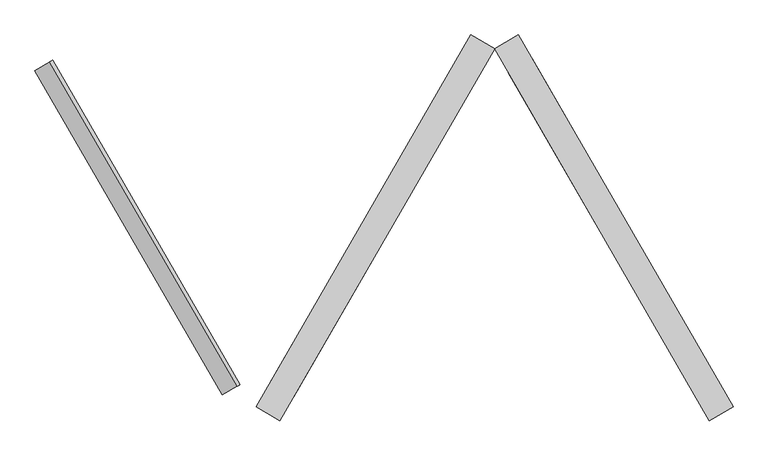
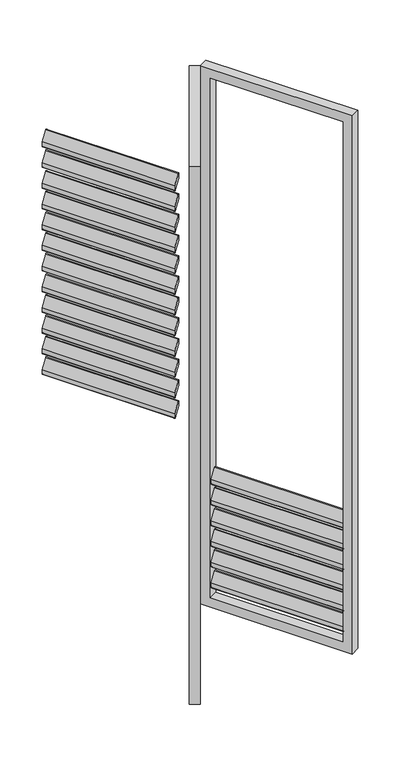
"""IFC4 building model written with IfcOpenShell, lengths in millimetres: proxy geometry, Renson_Amani_Loggia_Paro_Aluminium_Folding : Renson_Amani_Loggia_Paro_Aluminium_Folding."""

from ifc_helpers import new_model, si_unit, point, frame, frame_2d, origin, place, context, project, spatial, polyline, circle_curve, trimmed, segment, composite_curve, outline, extrude, source, transform, mapped, element, save


def generic_models_ec5acdc6(model_context):
    return source(origin(), model_context, "Body", "SweptSolid", [
        extrude(outline(composite_curve([segment(polyline([(-44.0658831, 0.0), (0.8886405, 0.0), (17.0325667, -10.4839883)]), True, "CONTINUOUS"), segment(trimmed(circle_curve(frame_2d((15.3986496, -13.0)), 3.0), [point((17.0325667, -10.4839883))], [point((15.3986496, -16.0))], False, "CARTESIAN"), True, "CONTINUOUS"), segment(polyline([(15.3986496, -16.0), (-28.6672334, -16.0)]), True, "CONTINUOUS"), segment(trimmed(circle_curve(frame_2d((-28.6672334, -13.0)), 3.0), [point((-28.6672334, -16.0))], [point((-30.3011505, -15.5160117))], False, "CARTESIAN"), True, "CONTINUOUS"), segment(polyline([(-30.3011505, -15.5160117), (-45.6998002, -5.5160117)]), True, "CONTINUOUS"), segment(trimmed(circle_curve(frame_2d((-44.0658831, -3.0)), 3.0), [point((-45.6998002, -5.5160117))], [point((-44.0658831, 0.0))], False, "CARTESIAN"), True, "CONTINUOUS")], self_intersect=False)), frame((1686.1094572, 37.7168064, 597.3359298), z_axis=(-0.5000000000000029, 0.866025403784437, 0.0), x_axis=(-0.47167124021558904, -0.27231951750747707, -0.8386705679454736)), (0.0, 0.0, 1.0), 545.0),
        extrude(outline(composite_curve([segment(polyline([(-44.0658831, 0.0), (0.8886405, 0.0), (17.0325667, -10.4839883)]), True, "CONTINUOUS"), segment(trimmed(circle_curve(frame_2d((15.3986496, -13.0)), 3.0), [point((17.0325667, -10.4839883))], [point((15.3986496, -16.0))], False, "CARTESIAN"), True, "CONTINUOUS"), segment(polyline([(15.3986496, -16.0), (-28.6672334, -16.0)]), True, "CONTINUOUS"), segment(trimmed(circle_curve(frame_2d((-28.6672334, -13.0)), 3.0), [point((-28.6672334, -16.0))], [point((-30.3011505, -15.5160117))], False, "CARTESIAN"), True, "CONTINUOUS"), segment(polyline([(-30.3011505, -15.5160117), (-45.6998002, -5.5160117)]), True, "CONTINUOUS"), segment(trimmed(circle_curve(frame_2d((-44.0658831, -3.0)), 3.0), [point((-45.6998002, -5.5160117))], [point((-44.0658831, 0.0))], False, "CARTESIAN"), True, "CONTINUOUS")], self_intersect=False)), frame((1686.1094572, 37.7168064, 507.3359298), z_axis=(-0.5000000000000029, 0.866025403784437, 0.0), x_axis=(-0.47167124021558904, -0.27231951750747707, -0.8386705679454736)), (0.0, 0.0, 1.0), 545.0),
        extrude(outline(composite_curve([segment(polyline([(-44.0658831, 0.0), (0.8886405, 0.0), (17.0325667, -10.4839883)]), True, "CONTINUOUS"), segment(trimmed(circle_curve(frame_2d((15.3986496, -13.0)), 3.0), [point((17.0325667, -10.4839883))], [point((15.3986496, -16.0))], False, "CARTESIAN"), True, "CONTINUOUS"), segment(polyline([(15.3986496, -16.0), (-28.6672334, -16.0)]), True, "CONTINUOUS"), segment(trimmed(circle_curve(frame_2d((-28.6672334, -13.0)), 3.0), [point((-28.6672334, -16.0))], [point((-30.3011505, -15.5160117))], False, "CARTESIAN"), True, "CONTINUOUS"), segment(polyline([(-30.3011505, -15.5160117), (-45.6998002, -5.5160117)]), True, "CONTINUOUS"), segment(trimmed(circle_curve(frame_2d((-44.0658831, -3.0)), 3.0), [point((-45.6998002, -5.5160117))], [point((-44.0658831, 0.0))], False, "CARTESIAN"), True, "CONTINUOUS")], self_intersect=False)), frame((1686.1094572, 37.7168064, 417.3359298), z_axis=(-0.5000000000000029, 0.866025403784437, 0.0), x_axis=(-0.47167124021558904, -0.27231951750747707, -0.8386705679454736)), (0.0, 0.0, 1.0), 545.0),
        extrude(outline(composite_curve([segment(polyline([(-44.0658831, 0.0), (0.8886405, 0.0), (17.0325667, -10.4839883)]), True, "CONTINUOUS"), segment(trimmed(circle_curve(frame_2d((15.3986496, -13.0)), 3.0), [point((17.0325667, -10.4839883))], [point((15.3986496, -16.0))], False, "CARTESIAN"), True, "CONTINUOUS"), segment(polyline([(15.3986496, -16.0), (-28.6672334, -16.0)]), True, "CONTINUOUS"), segment(trimmed(circle_curve(frame_2d((-28.6672334, -13.0)), 3.0), [point((-28.6672334, -16.0))], [point((-30.3011505, -15.5160117))], False, "CARTESIAN"), True, "CONTINUOUS"), segment(polyline([(-30.3011505, -15.5160117), (-45.6998002, -5.5160117)]), True, "CONTINUOUS"), segment(trimmed(circle_curve(frame_2d((-44.0658831, -3.0)), 3.0), [point((-45.6998002, -5.5160117))], [point((-44.0658831, 0.0))], False, "CARTESIAN"), True, "CONTINUOUS")], self_intersect=False)), frame((1686.1094572, 37.7168064, 327.3359298), z_axis=(-0.5000000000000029, 0.866025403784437, 0.0), x_axis=(-0.47167124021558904, -0.27231951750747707, -0.8386705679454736)), (0.0, 0.0, 1.0), 545.0),
        extrude(outline(composite_curve([segment(polyline([(-44.0658831, 0.0), (0.8886405, 0.0), (17.0325667, -10.4839883)]), True, "CONTINUOUS"), segment(trimmed(circle_curve(frame_2d((15.3986496, -13.0)), 3.0), [point((17.0325667, -10.4839883))], [point((15.3986496, -16.0))], False, "CARTESIAN"), True, "CONTINUOUS"), segment(polyline([(15.3986496, -16.0), (-28.6672334, -16.0)]), True, "CONTINUOUS"), segment(trimmed(circle_curve(frame_2d((-28.6672334, -13.0)), 3.0), [point((-28.6672334, -16.0))], [point((-30.3011505, -15.5160117))], False, "CARTESIAN"), True, "CONTINUOUS"), segment(polyline([(-30.3011505, -15.5160117), (-45.6998002, -5.5160117)]), True, "CONTINUOUS"), segment(trimmed(circle_curve(frame_2d((-44.0658831, -3.0)), 3.0), [point((-45.6998002, -5.5160117))], [point((-44.0658831, 0.0))], False, "CARTESIAN"), True, "CONTINUOUS")], self_intersect=False)), frame((1686.1094572, 37.7168064, 237.3359298), z_axis=(-0.5000000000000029, 0.866025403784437, 0.0), x_axis=(-0.47167124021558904, -0.27231951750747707, -0.8386705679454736)), (0.0, 0.0, 1.0), 545.0),
        extrude(outline(composite_curve([segment(polyline([(-44.0658831, 0.0), (0.8886405, 0.0), (17.0325667, -10.4839883)]), True, "CONTINUOUS"), segment(trimmed(circle_curve(frame_2d((15.3986496, -13.0)), 3.0), [point((17.0325667, -10.4839883))], [point((15.3986496, -16.0))], False, "CARTESIAN"), True, "CONTINUOUS"), segment(polyline([(15.3986496, -16.0), (-28.6672334, -16.0)]), True, "CONTINUOUS"), segment(trimmed(circle_curve(frame_2d((-28.6672334, -13.0)), 3.0), [point((-28.6672334, -16.0))], [point((-30.3011505, -15.5160117))], False, "CARTESIAN"), True, "CONTINUOUS"), segment(polyline([(-30.3011505, -15.5160117), (-45.6998002, -5.5160117)]), True, "CONTINUOUS"), segment(trimmed(circle_curve(frame_2d((-44.0658831, -3.0)), 3.0), [point((-45.6998002, -5.5160117))], [point((-44.0658831, 0.0))], False, "CARTESIAN"), True, "CONTINUOUS")], self_intersect=False)), frame((1686.1094572, 37.7168064, 147.3359298), z_axis=(-0.5000000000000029, 0.866025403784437, 0.0), x_axis=(-0.47167124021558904, -0.27231951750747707, -0.8386705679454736)), (0.0, 0.0, 1.0), 545.0),
        extrude(outline(polyline([(2300.0, -40.0), (-40.0, -40.0), (-40.0, 585.0), (2300.0, 585.0), (2300.0, -40.0)]), holes=[polyline([(2260.0, 544.9999999), (0.0, 544.9999999), (0.0, 0.0), (2260.0, 0.0), (2260.0, 544.9999999)])]), frame((1408.2820323, 506.6248612, 85.0), z_axis=(0.866025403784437, 0.500000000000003, 0.0), x_axis=(0.0, 0.0, 1.0)), (0.0, 0.0, 1.0), 40.0),
        extrude(outline(composite_curve([segment(trimmed(circle_curve(frame_2d((44.0658831, -3.0)), 3.0), [point((44.0658831, 0.0))], [point((45.6998002, -5.5160117))], False, "CARTESIAN"), True, "CONTINUOUS"), segment(polyline([(45.6998002, -5.5160117), (30.3011505, -15.5160117)]), True, "CONTINUOUS"), segment(trimmed(circle_curve(frame_2d((28.6672334, -13.0)), 3.0), [point((30.3011505, -15.5160117))], [point((28.6672334, -16.0))], False, "CARTESIAN"), True, "CONTINUOUS"), segment(polyline([(28.6672334, -16.0), (-15.3986496, -16.0)]), True, "CONTINUOUS"), segment(trimmed(circle_curve(frame_2d((-15.3986496, -13.0)), 3.0), [point((-15.3986496, -16.0))], [point((-17.0325667, -10.4839883))], False, "CARTESIAN"), True, "CONTINUOUS"), segment(polyline([(-17.0325667, -10.4839883), (-0.8886405, 0.0), (44.0658831, 0.0)]), True, "CONTINUOUS")], self_intersect=False)), frame((1090.4546074, 37.7168064, 2307.3359298), z_axis=(0.5000000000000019, 0.8660254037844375, 0.0), x_axis=(-0.4716712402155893, 0.2723195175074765, 0.8386705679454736)), (0.0, 0.0, 1.0), 545.0),
        extrude(outline(composite_curve([segment(trimmed(circle_curve(frame_2d((44.0658831, -3.0)), 3.0), [point((44.0658831, 0.0))], [point((45.6998002, -5.5160117))], False, "CARTESIAN"), True, "CONTINUOUS"), segment(polyline([(45.6998002, -5.5160117), (30.3011505, -15.5160117)]), True, "CONTINUOUS"), segment(trimmed(circle_curve(frame_2d((28.6672334, -13.0)), 3.0), [point((30.3011505, -15.5160117))], [point((28.6672334, -16.0))], False, "CARTESIAN"), True, "CONTINUOUS"), segment(polyline([(28.6672334, -16.0), (-15.3986496, -16.0)]), True, "CONTINUOUS"), segment(trimmed(circle_curve(frame_2d((-15.3986496, -13.0)), 3.0), [point((-15.3986496, -16.0))], [point((-17.0325667, -10.4839883))], False, "CARTESIAN"), True, "CONTINUOUS"), segment(polyline([(-17.0325667, -10.4839883), (-0.8886405, 0.0), (44.0658831, 0.0)]), True, "CONTINUOUS")], self_intersect=False)), frame((1090.4546074, 37.7168064, 2217.3359298), z_axis=(0.5000000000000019, 0.8660254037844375, 0.0), x_axis=(-0.4716712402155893, 0.2723195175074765, 0.8386705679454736)), (0.0, 0.0, 1.0), 545.0),
        extrude(outline(composite_curve([segment(trimmed(circle_curve(frame_2d((44.0658831, -3.0)), 3.0), [point((44.0658831, 0.0))], [point((45.6998002, -5.5160117))], False, "CARTESIAN"), True, "CONTINUOUS"), segment(polyline([(45.6998002, -5.5160117), (30.3011505, -15.5160117)]), True, "CONTINUOUS"), segment(trimmed(circle_curve(frame_2d((28.6672334, -13.0)), 3.0), [point((30.3011505, -15.5160117))], [point((28.6672334, -16.0))], False, "CARTESIAN"), True, "CONTINUOUS"), segment(polyline([(28.6672334, -16.0), (-15.3986496, -16.0)]), True, "CONTINUOUS"), segment(trimmed(circle_curve(frame_2d((-15.3986496, -13.0)), 3.0), [point((-15.3986496, -16.0))], [point((-17.0325667, -10.4839883))], False, "CARTESIAN"), True, "CONTINUOUS"), segment(polyline([(-17.0325667, -10.4839883), (-0.8886405, 0.0), (44.0658831, 0.0)]), True, "CONTINUOUS")], self_intersect=False)), frame((1090.4546074, 37.7168064, 2127.3359298), z_axis=(0.5000000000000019, 0.8660254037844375, 0.0), x_axis=(-0.4716712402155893, 0.2723195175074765, 0.8386705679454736)), (0.0, 0.0, 1.0), 545.0),
        extrude(outline(composite_curve([segment(trimmed(circle_curve(frame_2d((44.0658831, -3.0)), 3.0), [point((44.0658831, 0.0))], [point((45.6998002, -5.5160117))], False, "CARTESIAN"), True, "CONTINUOUS"), segment(polyline([(45.6998002, -5.5160117), (30.3011505, -15.5160117)]), True, "CONTINUOUS"), segment(trimmed(circle_curve(frame_2d((28.6672334, -13.0)), 3.0), [point((30.3011505, -15.5160117))], [point((28.6672334, -16.0))], False, "CARTESIAN"), True, "CONTINUOUS"), segment(polyline([(28.6672334, -16.0), (-15.3986496, -16.0)]), True, "CONTINUOUS"), segment(trimmed(circle_curve(frame_2d((-15.3986496, -13.0)), 3.0), [point((-15.3986496, -16.0))], [point((-17.0325667, -10.4839883))], False, "CARTESIAN"), True, "CONTINUOUS"), segment(polyline([(-17.0325667, -10.4839883), (-0.8886405, 0.0), (44.0658831, 0.0)]), True, "CONTINUOUS")], self_intersect=False)), frame((1090.4546074, 37.7168064, 2037.3359298), z_axis=(0.5000000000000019, 0.8660254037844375, 0.0), x_axis=(-0.4716712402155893, 0.2723195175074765, 0.8386705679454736)), (0.0, 0.0, 1.0), 545.0),
        extrude(outline(composite_curve([segment(trimmed(circle_curve(frame_2d((44.0658831, -3.0)), 3.0), [point((44.0658831, 0.0))], [point((45.6998002, -5.5160117))], False, "CARTESIAN"), True, "CONTINUOUS"), segment(polyline([(45.6998002, -5.5160117), (30.3011505, -15.5160117)]), True, "CONTINUOUS"), segment(trimmed(circle_curve(frame_2d((28.6672334, -13.0)), 3.0), [point((30.3011505, -15.5160117))], [point((28.6672334, -16.0))], False, "CARTESIAN"), True, "CONTINUOUS"), segment(polyline([(28.6672334, -16.0), (-15.3986496, -16.0)]), True, "CONTINUOUS"), segment(trimmed(circle_curve(frame_2d((-15.3986496, -13.0)), 3.0), [point((-15.3986496, -16.0))], [point((-17.0325667, -10.4839883))], False, "CARTESIAN"), True, "CONTINUOUS"), segment(polyline([(-17.0325667, -10.4839883), (-0.8886405, 0.0), (44.0658831, 0.0)]), True, "CONTINUOUS")], self_intersect=False)), frame((1090.4546074, 37.7168064, 1947.3359298), z_axis=(0.5000000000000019, 0.8660254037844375, 0.0), x_axis=(-0.4716712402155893, 0.2723195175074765, 0.8386705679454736)), (0.0, 0.0, 1.0), 545.0),
        extrude(outline(composite_curve([segment(trimmed(circle_curve(frame_2d((44.0658831, -3.0)), 3.0), [point((44.0658831, 0.0))], [point((45.6998002, -5.5160117))], False, "CARTESIAN"), True, "CONTINUOUS"), segment(polyline([(45.6998002, -5.5160117), (30.3011505, -15.5160117)]), True, "CONTINUOUS"), segment(trimmed(circle_curve(frame_2d((28.6672334, -13.0)), 3.0), [point((30.3011505, -15.5160117))], [point((28.6672334, -16.0))], False, "CARTESIAN"), True, "CONTINUOUS"), segment(polyline([(28.6672334, -16.0), (-15.3986496, -16.0)]), True, "CONTINUOUS"), segment(trimmed(circle_curve(frame_2d((-15.3986496, -13.0)), 3.0), [point((-15.3986496, -16.0))], [point((-17.0325667, -10.4839883))], False, "CARTESIAN"), True, "CONTINUOUS"), segment(polyline([(-17.0325667, -10.4839883), (-0.8886405, 0.0), (44.0658831, 0.0)]), True, "CONTINUOUS")], self_intersect=False)), frame((1090.4546074, 37.7168064, 1857.3359298), z_axis=(0.5000000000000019, 0.8660254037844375, 0.0), x_axis=(-0.4716712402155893, 0.2723195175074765, 0.8386705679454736)), (0.0, 0.0, 1.0), 545.0),
        extrude(outline(composite_curve([segment(trimmed(circle_curve(frame_2d((44.0658831, -3.0)), 3.0), [point((44.0658831, 0.0))], [point((45.6998002, -5.5160117))], False, "CARTESIAN"), True, "CONTINUOUS"), segment(polyline([(45.6998002, -5.5160117), (30.3011505, -15.5160117)]), True, "CONTINUOUS"), segment(trimmed(circle_curve(frame_2d((28.6672334, -13.0)), 3.0), [point((30.3011505, -15.5160117))], [point((28.6672334, -16.0))], False, "CARTESIAN"), True, "CONTINUOUS"), segment(polyline([(28.6672334, -16.0), (-15.3986496, -16.0)]), True, "CONTINUOUS"), segment(trimmed(circle_curve(frame_2d((-15.3986496, -13.0)), 3.0), [point((-15.3986496, -16.0))], [point((-17.0325667, -10.4839883))], False, "CARTESIAN"), True, "CONTINUOUS"), segment(polyline([(-17.0325667, -10.4839883), (-0.8886405, 0.0), (44.0658831, 0.0)]), True, "CONTINUOUS")], self_intersect=False)), frame((1090.4546074, 37.7168064, 1767.3359298), z_axis=(0.5000000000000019, 0.8660254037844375, 0.0), x_axis=(-0.4716712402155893, 0.2723195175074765, 0.8386705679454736)), (0.0, 0.0, 1.0), 545.0),
        extrude(outline(composite_curve([segment(trimmed(circle_curve(frame_2d((44.0658831, -3.0)), 3.0), [point((44.0658831, 0.0))], [point((45.6998002, -5.5160117))], False, "CARTESIAN"), True, "CONTINUOUS"), segment(polyline([(45.6998002, -5.5160117), (30.3011505, -15.5160117)]), True, "CONTINUOUS"), segment(trimmed(circle_curve(frame_2d((28.6672334, -13.0)), 3.0), [point((30.3011505, -15.5160117))], [point((28.6672334, -16.0))], False, "CARTESIAN"), True, "CONTINUOUS"), segment(polyline([(28.6672334, -16.0), (-15.3986496, -16.0)]), True, "CONTINUOUS"), segment(trimmed(circle_curve(frame_2d((-15.3986496, -13.0)), 3.0), [point((-15.3986496, -16.0))], [point((-17.0325667, -10.4839883))], False, "CARTESIAN"), True, "CONTINUOUS"), segment(polyline([(-17.0325667, -10.4839883), (-0.8886405, 0.0), (44.0658831, 0.0)]), True, "CONTINUOUS")], self_intersect=False)), frame((1090.4546074, 37.7168064, 1677.3359298), z_axis=(0.5000000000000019, 0.8660254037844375, 0.0), x_axis=(-0.4716712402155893, 0.2723195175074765, 0.8386705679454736)), (0.0, 0.0, 1.0), 545.0),
        extrude(outline(composite_curve([segment(trimmed(circle_curve(frame_2d((44.0658831, -3.0)), 3.0), [point((44.0658831, 0.0))], [point((45.6998002, -5.5160117))], False, "CARTESIAN"), True, "CONTINUOUS"), segment(polyline([(45.6998002, -5.5160117), (30.3011505, -15.5160117)]), True, "CONTINUOUS"), segment(trimmed(circle_curve(frame_2d((28.6672334, -13.0)), 3.0), [point((30.3011505, -15.5160117))], [point((28.6672334, -16.0))], False, "CARTESIAN"), True, "CONTINUOUS"), segment(polyline([(28.6672334, -16.0), (-15.3986496, -16.0)]), True, "CONTINUOUS"), segment(trimmed(circle_curve(frame_2d((-15.3986496, -13.0)), 3.0), [point((-15.3986496, -16.0))], [point((-17.0325667, -10.4839883))], False, "CARTESIAN"), True, "CONTINUOUS"), segment(polyline([(-17.0325667, -10.4839883), (-0.8886405, 0.0), (44.0658831, 0.0)]), True, "CONTINUOUS")], self_intersect=False)), frame((1090.4546074, 37.7168064, 1587.3359298), z_axis=(0.5000000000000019, 0.8660254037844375, 0.0), x_axis=(-0.4716712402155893, 0.2723195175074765, 0.8386705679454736)), (0.0, 0.0, 1.0), 545.0),
        extrude(outline(composite_curve([segment(trimmed(circle_curve(frame_2d((44.0658831, -3.0)), 3.0), [point((44.0658831, 0.0))], [point((45.6998002, -5.5160117))], False, "CARTESIAN"), True, "CONTINUOUS"), segment(polyline([(45.6998002, -5.5160117), (30.3011505, -15.5160117)]), True, "CONTINUOUS"), segment(trimmed(circle_curve(frame_2d((28.6672334, -13.0)), 3.0), [point((30.3011505, -15.5160117))], [point((28.6672334, -16.0))], False, "CARTESIAN"), True, "CONTINUOUS"), segment(polyline([(28.6672334, -16.0), (-15.3986496, -16.0)]), True, "CONTINUOUS"), segment(trimmed(circle_curve(frame_2d((-15.3986496, -13.0)), 3.0), [point((-15.3986496, -16.0))], [point((-17.0325667, -10.4839883))], False, "CARTESIAN"), True, "CONTINUOUS"), segment(polyline([(-17.0325667, -10.4839883), (-0.8886405, 0.0), (44.0658831, 0.0)]), True, "CONTINUOUS")], self_intersect=False)), frame((1090.4546074, 37.7168064, 1497.3359298), z_axis=(0.5000000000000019, 0.8660254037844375, 0.0), x_axis=(-0.4716712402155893, 0.2723195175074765, 0.8386705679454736)), (0.0, 0.0, 1.0), 545.0),
        extrude(outline(composite_curve([segment(trimmed(circle_curve(frame_2d((44.0658831, -3.0)), 3.0), [point((44.0658831, 0.0))], [point((45.6998002, -5.5160117))], False, "CARTESIAN"), True, "CONTINUOUS"), segment(polyline([(45.6998002, -5.5160117), (30.3011505, -15.5160117)]), True, "CONTINUOUS"), segment(trimmed(circle_curve(frame_2d((28.6672334, -13.0)), 3.0), [point((30.3011505, -15.5160117))], [point((28.6672334, -16.0))], False, "CARTESIAN"), True, "CONTINUOUS"), segment(polyline([(28.6672334, -16.0), (-15.3986496, -16.0)]), True, "CONTINUOUS"), segment(trimmed(circle_curve(frame_2d((-15.3986496, -13.0)), 3.0), [point((-15.3986496, -16.0))], [point((-17.0325667, -10.4839883))], False, "CARTESIAN"), True, "CONTINUOUS"), segment(polyline([(-17.0325667, -10.4839883), (-0.8886405, 0.0), (44.0658831, 0.0)]), True, "CONTINUOUS")], self_intersect=False)), frame((1090.4546074, 37.7168064, 1407.3359298), z_axis=(0.5000000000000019, 0.8660254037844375, 0.0), x_axis=(-0.4716712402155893, 0.2723195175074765, 0.8386705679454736)), (0.0, 0.0, 1.0), 545.0),
        extrude(outline(composite_curve([segment(trimmed(circle_curve(frame_2d((44.0658831, -3.0)), 3.0), [point((44.0658831, 0.0))], [point((45.6998002, -5.5160117))], False, "CARTESIAN"), True, "CONTINUOUS"), segment(polyline([(45.6998002, -5.5160117), (30.3011505, -15.5160117)]), True, "CONTINUOUS"), segment(trimmed(circle_curve(frame_2d((28.6672334, -13.0)), 3.0), [point((30.3011505, -15.5160117))], [point((28.6672334, -16.0))], False, "CARTESIAN"), True, "CONTINUOUS"), segment(polyline([(28.6672334, -16.0), (-15.3986496, -16.0)]), True, "CONTINUOUS"), segment(trimmed(circle_curve(frame_2d((-15.3986496, -13.0)), 3.0), [point((-15.3986496, -16.0))], [point((-17.0325667, -10.4839883))], False, "CARTESIAN"), True, "CONTINUOUS"), segment(polyline([(-17.0325667, -10.4839883), (-0.8886405, 0.0), (44.0658831, 0.0)]), True, "CONTINUOUS")], self_intersect=False)), frame((1090.4546074, 37.7168064, 1317.3359298), z_axis=(0.5000000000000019, 0.8660254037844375, 0.0), x_axis=(-0.4716712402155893, 0.2723195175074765, 0.8386705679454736)), (0.0, 0.0, 1.0), 545.0),
        extrude(outline(composite_curve([segment(trimmed(circle_curve(frame_2d((44.0658831, -3.0)), 3.0), [point((44.0658831, 0.0))], [point((45.6998002, -5.5160117))], False, "CARTESIAN"), True, "CONTINUOUS"), segment(polyline([(45.6998002, -5.5160117), (30.3011505, -15.5160117)]), True, "CONTINUOUS"), segment(trimmed(circle_curve(frame_2d((28.6672334, -13.0)), 3.0), [point((30.3011505, -15.5160117))], [point((28.6672334, -16.0))], False, "CARTESIAN"), True, "CONTINUOUS"), segment(polyline([(28.6672334, -16.0), (-15.3986496, -16.0)]), True, "CONTINUOUS"), segment(trimmed(circle_curve(frame_2d((-15.3986496, -13.0)), 3.0), [point((-15.3986496, -16.0))], [point((-17.0325667, -10.4839883))], False, "CARTESIAN"), True, "CONTINUOUS"), segment(polyline([(-17.0325667, -10.4839883), (-0.8886405, 0.0), (44.0658831, 0.0)]), True, "CONTINUOUS")], self_intersect=False)), frame((1090.4546074, 37.7168064, 1227.3359298), z_axis=(0.5000000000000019, 0.8660254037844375, 0.0), x_axis=(-0.4716712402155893, 0.2723195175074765, 0.8386705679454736)), (0.0, 0.0, 1.0), 545.0),
        extrude(outline(composite_curve([segment(trimmed(circle_curve(frame_2d((44.0658831, -3.0)), 3.0), [point((44.0658831, 0.0))], [point((45.6998002, -5.5160117))], False, "CARTESIAN"), True, "CONTINUOUS"), segment(polyline([(45.6998002, -5.5160117), (30.3011505, -15.5160117)]), True, "CONTINUOUS"), segment(trimmed(circle_curve(frame_2d((28.6672334, -13.0)), 3.0), [point((30.3011505, -15.5160117))], [point((28.6672334, -16.0))], False, "CARTESIAN"), True, "CONTINUOUS"), segment(polyline([(28.6672334, -16.0), (-15.3986496, -16.0)]), True, "CONTINUOUS"), segment(trimmed(circle_curve(frame_2d((-15.3986496, -13.0)), 3.0), [point((-15.3986496, -16.0))], [point((-17.0325667, -10.4839883))], False, "CARTESIAN"), True, "CONTINUOUS"), segment(polyline([(-17.0325667, -10.4839883), (-0.8886405, 0.0), (44.0658831, 0.0)]), True, "CONTINUOUS")], self_intersect=False)), frame((1090.4546074, 37.7168064, 1137.3359298), z_axis=(0.5000000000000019, 0.8660254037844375, 0.0), x_axis=(-0.4716712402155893, 0.2723195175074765, 0.8386705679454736)), (0.0, 0.0, 1.0), 545.0),
        extrude(outline(composite_curve([segment(trimmed(circle_curve(frame_2d((44.0658831, -3.0)), 3.0), [point((44.0658831, 0.0))], [point((45.6998002, -5.5160117))], False, "CARTESIAN"), True, "CONTINUOUS"), segment(polyline([(45.6998002, -5.5160117), (30.3011505, -15.5160117)]), True, "CONTINUOUS"), segment(trimmed(circle_curve(frame_2d((28.6672334, -13.0)), 3.0), [point((30.3011505, -15.5160117))], [point((28.6672334, -16.0))], False, "CARTESIAN"), True, "CONTINUOUS"), segment(polyline([(28.6672334, -16.0), (-15.3986496, -16.0)]), True, "CONTINUOUS"), segment(trimmed(circle_curve(frame_2d((-15.3986496, -13.0)), 3.0), [point((-15.3986496, -16.0))], [point((-17.0325667, -10.4839883))], False, "CARTESIAN"), True, "CONTINUOUS"), segment(polyline([(-17.0325667, -10.4839883), (-0.8886405, 0.0), (44.0658831, 0.0)]), True, "CONTINUOUS")], self_intersect=False)), frame((1090.4546074, 37.7168064, 1047.3359298), z_axis=(0.5000000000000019, 0.8660254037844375, 0.0), x_axis=(-0.4716712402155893, 0.2723195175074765, 0.8386705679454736)), (0.0, 0.0, 1.0), 545.0),
        extrude(outline(composite_curve([segment(trimmed(circle_curve(frame_2d((44.0658831, -3.0)), 3.0), [point((44.0658831, 0.0))], [point((45.6998002, -5.5160117))], False, "CARTESIAN"), True, "CONTINUOUS"), segment(polyline([(45.6998002, -5.5160117), (30.3011505, -15.5160117)]), True, "CONTINUOUS"), segment(trimmed(circle_curve(frame_2d((28.6672334, -13.0)), 3.0), [point((30.3011505, -15.5160117))], [point((28.6672334, -16.0))], False, "CARTESIAN"), True, "CONTINUOUS"), segment(polyline([(28.6672334, -16.0), (-15.3986496, -16.0)]), True, "CONTINUOUS"), segment(trimmed(circle_curve(frame_2d((-15.3986496, -13.0)), 3.0), [point((-15.3986496, -16.0))], [point((-17.0325667, -10.4839883))], False, "CARTESIAN"), True, "CONTINUOUS"), segment(polyline([(-17.0325667, -10.4839883), (-0.8886405, 0.0), (44.0658831, 0.0)]), True, "CONTINUOUS")], self_intersect=False)), frame((1090.4546074, 37.7168064, 957.3359298), z_axis=(0.5000000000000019, 0.8660254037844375, 0.0), x_axis=(-0.4716712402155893, 0.2723195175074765, 0.8386705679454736)), (0.0, 0.0, 1.0), 545.0),
        extrude(outline(composite_curve([segment(trimmed(circle_curve(frame_2d((44.0658831, -3.0)), 3.0), [point((44.0658831, 0.0))], [point((45.6998002, -5.5160117))], False, "CARTESIAN"), True, "CONTINUOUS"), segment(polyline([(45.6998002, -5.5160117), (30.3011505, -15.5160117)]), True, "CONTINUOUS"), segment(trimmed(circle_curve(frame_2d((28.6672334, -13.0)), 3.0), [point((30.3011505, -15.5160117))], [point((28.6672334, -16.0))], False, "CARTESIAN"), True, "CONTINUOUS"), segment(polyline([(28.6672334, -16.0), (-15.3986496, -16.0)]), True, "CONTINUOUS"), segment(trimmed(circle_curve(frame_2d((-15.3986496, -13.0)), 3.0), [point((-15.3986496, -16.0))], [point((-17.0325667, -10.4839883))], False, "CARTESIAN"), True, "CONTINUOUS"), segment(polyline([(-17.0325667, -10.4839883), (-0.8886405, 0.0), (44.0658831, 0.0)]), True, "CONTINUOUS")], self_intersect=False)), frame((1090.4546074, 37.7168064, 867.3359298), z_axis=(0.5000000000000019, 0.8660254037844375, 0.0), x_axis=(-0.4716712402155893, 0.2723195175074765, 0.8386705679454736)), (0.0, 0.0, 1.0), 545.0),
        extrude(outline(composite_curve([segment(trimmed(circle_curve(frame_2d((44.0658831, -3.0)), 3.0), [point((44.0658831, 0.0))], [point((45.6998002, -5.5160117))], False, "CARTESIAN"), True, "CONTINUOUS"), segment(polyline([(45.6998002, -5.5160117), (30.3011505, -15.5160117)]), True, "CONTINUOUS"), segment(trimmed(circle_curve(frame_2d((28.6672334, -13.0)), 3.0), [point((30.3011505, -15.5160117))], [point((28.6672334, -16.0))], False, "CARTESIAN"), True, "CONTINUOUS"), segment(polyline([(28.6672334, -16.0), (-15.3986496, -16.0)]), True, "CONTINUOUS"), segment(trimmed(circle_curve(frame_2d((-15.3986496, -13.0)), 3.0), [point((-15.3986496, -16.0))], [point((-17.0325667, -10.4839883))], False, "CARTESIAN"), True, "CONTINUOUS"), segment(polyline([(-17.0325667, -10.4839883), (-0.8886405, 0.0), (44.0658831, 0.0)]), True, "CONTINUOUS")], self_intersect=False)), frame((1090.4546074, 37.7168064, 777.3359298), z_axis=(0.5000000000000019, 0.8660254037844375, 0.0), x_axis=(-0.4716712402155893, 0.2723195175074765, 0.8386705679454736)), (0.0, 0.0, 1.0), 545.0),
        extrude(outline(composite_curve([segment(trimmed(circle_curve(frame_2d((44.0658831, -3.0)), 3.0), [point((44.0658831, 0.0))], [point((45.6998002, -5.5160117))], False, "CARTESIAN"), True, "CONTINUOUS"), segment(polyline([(45.6998002, -5.5160117), (30.3011505, -15.5160117)]), True, "CONTINUOUS"), segment(trimmed(circle_curve(frame_2d((28.6672334, -13.0)), 3.0), [point((30.3011505, -15.5160117))], [point((28.6672334, -16.0))], False, "CARTESIAN"), True, "CONTINUOUS"), segment(polyline([(28.6672334, -16.0), (-15.3986496, -16.0)]), True, "CONTINUOUS"), segment(trimmed(circle_curve(frame_2d((-15.3986496, -13.0)), 3.0), [point((-15.3986496, -16.0))], [point((-17.0325667, -10.4839883))], False, "CARTESIAN"), True, "CONTINUOUS"), segment(polyline([(-17.0325667, -10.4839883), (-0.8886405, 0.0), (44.0658831, 0.0)]), True, "CONTINUOUS")], self_intersect=False)), frame((1090.4546074, 37.7168064, 687.3359298), z_axis=(0.5000000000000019, 0.8660254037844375, 0.0), x_axis=(-0.4716712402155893, 0.2723195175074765, 0.8386705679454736)), (0.0, 0.0, 1.0), 545.0),
        extrude(outline(composite_curve([segment(trimmed(circle_curve(frame_2d((44.0658831, -3.0)), 3.0), [point((44.0658831, 0.0))], [point((45.6998002, -5.5160117))], False, "CARTESIAN"), True, "CONTINUOUS"), segment(polyline([(45.6998002, -5.5160117), (30.3011505, -15.5160117)]), True, "CONTINUOUS"), segment(trimmed(circle_curve(frame_2d((28.6672334, -13.0)), 3.0), [point((30.3011505, -15.5160117))], [point((28.6672334, -16.0))], False, "CARTESIAN"), True, "CONTINUOUS"), segment(polyline([(28.6672334, -16.0), (-15.3986496, -16.0)]), True, "CONTINUOUS"), segment(trimmed(circle_curve(frame_2d((-15.3986496, -13.0)), 3.0), [point((-15.3986496, -16.0))], [point((-17.0325667, -10.4839883))], False, "CARTESIAN"), True, "CONTINUOUS"), segment(polyline([(-17.0325667, -10.4839883), (-0.8886405, 0.0), (44.0658831, 0.0)]), True, "CONTINUOUS")], self_intersect=False)), frame((1090.4546074, 37.7168064, 597.3359298), z_axis=(0.5000000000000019, 0.8660254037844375, 0.0), x_axis=(-0.4716712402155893, 0.2723195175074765, 0.8386705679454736)), (0.0, 0.0, 1.0), 545.0),
        extrude(outline(composite_curve([segment(trimmed(circle_curve(frame_2d((44.0658831, -3.0)), 3.0), [point((44.0658831, 0.0))], [point((45.6998002, -5.5160117))], False, "CARTESIAN"), True, "CONTINUOUS"), segment(polyline([(45.6998002, -5.5160117), (30.3011505, -15.5160117)]), True, "CONTINUOUS"), segment(trimmed(circle_curve(frame_2d((28.6672334, -13.0)), 3.0), [point((30.3011505, -15.5160117))], [point((28.6672334, -16.0))], False, "CARTESIAN"), True, "CONTINUOUS"), segment(polyline([(28.6672334, -16.0), (-15.3986496, -16.0)]), True, "CONTINUOUS"), segment(trimmed(circle_curve(frame_2d((-15.3986496, -13.0)), 3.0), [point((-15.3986496, -16.0))], [point((-17.0325667, -10.4839883))], False, "CARTESIAN"), True, "CONTINUOUS"), segment(polyline([(-17.0325667, -10.4839883), (-0.8886405, 0.0), (44.0658831, 0.0)]), True, "CONTINUOUS")], self_intersect=False)), frame((1090.4546074, 37.7168064, 507.3359298), z_axis=(0.5000000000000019, 0.8660254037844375, 0.0), x_axis=(-0.4716712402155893, 0.2723195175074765, 0.8386705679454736)), (0.0, 0.0, 1.0), 545.0),
        extrude(outline(composite_curve([segment(trimmed(circle_curve(frame_2d((44.0658831, -3.0)), 3.0), [point((44.0658831, 0.0))], [point((45.6998002, -5.5160117))], False, "CARTESIAN"), True, "CONTINUOUS"), segment(polyline([(45.6998002, -5.5160117), (30.3011505, -15.5160117)]), True, "CONTINUOUS"), segment(trimmed(circle_curve(frame_2d((28.6672334, -13.0)), 3.0), [point((30.3011505, -15.5160117))], [point((28.6672334, -16.0))], False, "CARTESIAN"), True, "CONTINUOUS"), segment(polyline([(28.6672334, -16.0), (-15.3986496, -16.0)]), True, "CONTINUOUS"), segment(trimmed(circle_curve(frame_2d((-15.3986496, -13.0)), 3.0), [point((-15.3986496, -16.0))], [point((-17.0325667, -10.4839883))], False, "CARTESIAN"), True, "CONTINUOUS"), segment(polyline([(-17.0325667, -10.4839883), (-0.8886405, 0.0), (44.0658831, 0.0)]), True, "CONTINUOUS")], self_intersect=False)), frame((1090.4546074, 37.7168064, 417.3359298), z_axis=(0.5000000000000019, 0.8660254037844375, 0.0), x_axis=(-0.4716712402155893, 0.2723195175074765, 0.8386705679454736)), (0.0, 0.0, 1.0), 545.0),
        extrude(outline(composite_curve([segment(trimmed(circle_curve(frame_2d((44.0658831, -3.0)), 3.0), [point((44.0658831, 0.0))], [point((45.6998002, -5.5160117))], False, "CARTESIAN"), True, "CONTINUOUS"), segment(polyline([(45.6998002, -5.5160117), (30.3011505, -15.5160117)]), True, "CONTINUOUS"), segment(trimmed(circle_curve(frame_2d((28.6672334, -13.0)), 3.0), [point((30.3011505, -15.5160117))], [point((28.6672334, -16.0))], False, "CARTESIAN"), True, "CONTINUOUS"), segment(polyline([(28.6672334, -16.0), (-15.3986496, -16.0)]), True, "CONTINUOUS"), segment(trimmed(circle_curve(frame_2d((-15.3986496, -13.0)), 3.0), [point((-15.3986496, -16.0))], [point((-17.0325667, -10.4839883))], False, "CARTESIAN"), True, "CONTINUOUS"), segment(polyline([(-17.0325667, -10.4839883), (-0.8886405, 0.0), (44.0658831, 0.0)]), True, "CONTINUOUS")], self_intersect=False)), frame((1090.4546074, 37.7168064, 327.3359298), z_axis=(0.5000000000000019, 0.8660254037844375, 0.0), x_axis=(-0.4716712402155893, 0.2723195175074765, 0.8386705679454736)), (0.0, 0.0, 1.0), 545.0),
        extrude(outline(composite_curve([segment(trimmed(circle_curve(frame_2d((44.0658831, -3.0)), 3.0), [point((44.0658831, 0.0))], [point((45.6998002, -5.5160117))], False, "CARTESIAN"), True, "CONTINUOUS"), segment(polyline([(45.6998002, -5.5160117), (30.3011505, -15.5160117)]), True, "CONTINUOUS"), segment(trimmed(circle_curve(frame_2d((28.6672334, -13.0)), 3.0), [point((30.3011505, -15.5160117))], [point((28.6672334, -16.0))], False, "CARTESIAN"), True, "CONTINUOUS"), segment(polyline([(28.6672334, -16.0), (-15.3986496, -16.0)]), True, "CONTINUOUS"), segment(trimmed(circle_curve(frame_2d((-15.3986496, -13.0)), 3.0), [point((-15.3986496, -16.0))], [point((-17.0325667, -10.4839883))], False, "CARTESIAN"), True, "CONTINUOUS"), segment(polyline([(-17.0325667, -10.4839883), (-0.8886405, 0.0), (44.0658831, 0.0)]), True, "CONTINUOUS")], self_intersect=False)), frame((1090.4546074, 37.7168064, 237.3359298), z_axis=(0.5000000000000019, 0.8660254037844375, 0.0), x_axis=(-0.4716712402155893, 0.2723195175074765, 0.8386705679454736)), (0.0, 0.0, 1.0), 545.0),
        extrude(outline(composite_curve([segment(trimmed(circle_curve(frame_2d((44.0658831, -3.0)), 3.0), [point((44.0658831, 0.0))], [point((45.6998002, -5.5160117))], False, "CARTESIAN"), True, "CONTINUOUS"), segment(polyline([(45.6998002, -5.5160117), (30.3011505, -15.5160117)]), True, "CONTINUOUS"), segment(trimmed(circle_curve(frame_2d((28.6672334, -13.0)), 3.0), [point((30.3011505, -15.5160117))], [point((28.6672334, -16.0))], False, "CARTESIAN"), True, "CONTINUOUS"), segment(polyline([(28.6672334, -16.0), (-15.3986496, -16.0)]), True, "CONTINUOUS"), segment(trimmed(circle_curve(frame_2d((-15.3986496, -13.0)), 3.0), [point((-15.3986496, -16.0))], [point((-17.0325667, -10.4839883))], False, "CARTESIAN"), True, "CONTINUOUS"), segment(polyline([(-17.0325667, -10.4839883), (-0.8886405, 0.0), (44.0658831, 0.0)]), True, "CONTINUOUS")], self_intersect=False)), frame((1090.4546074, 37.7168064, 147.3359298), z_axis=(0.5000000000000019, 0.8660254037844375, 0.0), x_axis=(-0.4716712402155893, 0.2723195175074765, 0.8386705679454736)), (0.0, 0.0, 1.0), 545.0),
        extrude(outline(polyline([(2300.0, -40.0), (-40.0, -40.0), (-40.0, 585.0), (2300.0, 585.0), (2300.0, -40.0)]), holes=[polyline([(2260.0, 544.9999999), (0.0, 544.9999999), (0.0, 0.0), (2260.0, 0.0), (2260.0, 544.9999999)])]), frame((1095.7820323, 34.6410162, 85.0), z_axis=(-0.8660254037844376, 0.5000000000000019, 0.0), x_axis=(0.0, 0.0, 1.0)), (0.0, 0.0, 1.0), 40.0),
        extrude(outline(composite_curve([segment(polyline([(-44.0658831, 0.0), (0.8886405, 0.0), (17.0325667, -10.4839883)]), True, "CONTINUOUS"), segment(trimmed(circle_curve(frame_2d((15.3986496, -13.0)), 3.0), [point((17.0325667, -10.4839883))], [point((15.3986496, -16.0))], False, "CARTESIAN"), True, "CONTINUOUS"), segment(polyline([(15.3986496, -16.0), (-28.6672334, -16.0)]), True, "CONTINUOUS"), segment(trimmed(circle_curve(frame_2d((-28.6672334, -13.0)), 3.0), [point((-28.6672334, -16.0))], [point((-30.3011505, -15.5160117))], False, "CARTESIAN"), True, "CONTINUOUS"), segment(polyline([(-30.3011505, -15.5160117), (-45.6998002, -5.5160117)]), True, "CONTINUOUS"), segment(trimmed(circle_curve(frame_2d((-44.0658831, -3.0)), 3.0), [point((-45.6998002, -5.5160117))], [point((-44.0658831, 0.0))], False, "CARTESIAN"), True, "CONTINUOUS")], self_intersect=False)), frame((992.1094572, 37.7168064, 2307.3359298), z_axis=(-0.5000000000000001, 0.8660254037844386, 0.0), x_axis=(-0.47167124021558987, -0.2723195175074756, -0.8386705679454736)), (0.0, 0.0, 1.0), 545.0),
        extrude(outline(composite_curve([segment(polyline([(-44.0658831, 0.0), (0.8886405, 0.0), (17.0325667, -10.4839883)]), True, "CONTINUOUS"), segment(trimmed(circle_curve(frame_2d((15.3986496, -13.0)), 3.0), [point((17.0325667, -10.4839883))], [point((15.3986496, -16.0))], False, "CARTESIAN"), True, "CONTINUOUS"), segment(polyline([(15.3986496, -16.0), (-28.6672334, -16.0)]), True, "CONTINUOUS"), segment(trimmed(circle_curve(frame_2d((-28.6672334, -13.0)), 3.0), [point((-28.6672334, -16.0))], [point((-30.3011505, -15.5160117))], False, "CARTESIAN"), True, "CONTINUOUS"), segment(polyline([(-30.3011505, -15.5160117), (-45.6998002, -5.5160117)]), True, "CONTINUOUS"), segment(trimmed(circle_curve(frame_2d((-44.0658831, -3.0)), 3.0), [point((-45.6998002, -5.5160117))], [point((-44.0658831, 0.0))], False, "CARTESIAN"), True, "CONTINUOUS")], self_intersect=False)), frame((992.1094572, 37.7168064, 2217.3359298), z_axis=(-0.5000000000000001, 0.8660254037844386, 0.0), x_axis=(-0.47167124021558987, -0.2723195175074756, -0.8386705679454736)), (0.0, 0.0, 1.0), 545.0),
        extrude(outline(composite_curve([segment(polyline([(-44.0658831, 0.0), (0.8886405, 0.0), (17.0325667, -10.4839883)]), True, "CONTINUOUS"), segment(trimmed(circle_curve(frame_2d((15.3986496, -13.0)), 3.0), [point((17.0325667, -10.4839883))], [point((15.3986496, -16.0))], False, "CARTESIAN"), True, "CONTINUOUS"), segment(polyline([(15.3986496, -16.0), (-28.6672334, -16.0)]), True, "CONTINUOUS"), segment(trimmed(circle_curve(frame_2d((-28.6672334, -13.0)), 3.0), [point((-28.6672334, -16.0))], [point((-30.3011505, -15.5160117))], False, "CARTESIAN"), True, "CONTINUOUS"), segment(polyline([(-30.3011505, -15.5160117), (-45.6998002, -5.5160117)]), True, "CONTINUOUS"), segment(trimmed(circle_curve(frame_2d((-44.0658831, -3.0)), 3.0), [point((-45.6998002, -5.5160117))], [point((-44.0658831, 0.0))], False, "CARTESIAN"), True, "CONTINUOUS")], self_intersect=False)), frame((992.1094572, 37.7168064, 2127.3359298), z_axis=(-0.5000000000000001, 0.8660254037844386, 0.0), x_axis=(-0.47167124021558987, -0.2723195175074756, -0.8386705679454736)), (0.0, 0.0, 1.0), 545.0),
        extrude(outline(composite_curve([segment(polyline([(-44.0658831, 0.0), (0.8886405, 0.0), (17.0325667, -10.4839883)]), True, "CONTINUOUS"), segment(trimmed(circle_curve(frame_2d((15.3986496, -13.0)), 3.0), [point((17.0325667, -10.4839883))], [point((15.3986496, -16.0))], False, "CARTESIAN"), True, "CONTINUOUS"), segment(polyline([(15.3986496, -16.0), (-28.6672334, -16.0)]), True, "CONTINUOUS"), segment(trimmed(circle_curve(frame_2d((-28.6672334, -13.0)), 3.0), [point((-28.6672334, -16.0))], [point((-30.3011505, -15.5160117))], False, "CARTESIAN"), True, "CONTINUOUS"), segment(polyline([(-30.3011505, -15.5160117), (-45.6998002, -5.5160117)]), True, "CONTINUOUS"), segment(trimmed(circle_curve(frame_2d((-44.0658831, -3.0)), 3.0), [point((-45.6998002, -5.5160117))], [point((-44.0658831, 0.0))], False, "CARTESIAN"), True, "CONTINUOUS")], self_intersect=False)), frame((992.1094572, 37.7168064, 2037.3359298), z_axis=(-0.5000000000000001, 0.8660254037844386, 0.0), x_axis=(-0.47167124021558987, -0.2723195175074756, -0.8386705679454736)), (0.0, 0.0, 1.0), 545.0),
        extrude(outline(composite_curve([segment(polyline([(-44.0658831, 0.0), (0.8886405, 0.0), (17.0325667, -10.4839883)]), True, "CONTINUOUS"), segment(trimmed(circle_curve(frame_2d((15.3986496, -13.0)), 3.0), [point((17.0325667, -10.4839883))], [point((15.3986496, -16.0))], False, "CARTESIAN"), True, "CONTINUOUS"), segment(polyline([(15.3986496, -16.0), (-28.6672334, -16.0)]), True, "CONTINUOUS"), segment(trimmed(circle_curve(frame_2d((-28.6672334, -13.0)), 3.0), [point((-28.6672334, -16.0))], [point((-30.3011505, -15.5160117))], False, "CARTESIAN"), True, "CONTINUOUS"), segment(polyline([(-30.3011505, -15.5160117), (-45.6998002, -5.5160117)]), True, "CONTINUOUS"), segment(trimmed(circle_curve(frame_2d((-44.0658831, -3.0)), 3.0), [point((-45.6998002, -5.5160117))], [point((-44.0658831, 0.0))], False, "CARTESIAN"), True, "CONTINUOUS")], self_intersect=False)), frame((992.1094572, 37.7168064, 1947.3359298), z_axis=(-0.5000000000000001, 0.8660254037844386, 0.0), x_axis=(-0.47167124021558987, -0.2723195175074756, -0.8386705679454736)), (0.0, 0.0, 1.0), 545.0),
        extrude(outline(composite_curve([segment(polyline([(-44.0658831, 0.0), (0.8886405, 0.0), (17.0325667, -10.4839883)]), True, "CONTINUOUS"), segment(trimmed(circle_curve(frame_2d((15.3986496, -13.0)), 3.0), [point((17.0325667, -10.4839883))], [point((15.3986496, -16.0))], False, "CARTESIAN"), True, "CONTINUOUS"), segment(polyline([(15.3986496, -16.0), (-28.6672334, -16.0)]), True, "CONTINUOUS"), segment(trimmed(circle_curve(frame_2d((-28.6672334, -13.0)), 3.0), [point((-28.6672334, -16.0))], [point((-30.3011505, -15.5160117))], False, "CARTESIAN"), True, "CONTINUOUS"), segment(polyline([(-30.3011505, -15.5160117), (-45.6998002, -5.5160117)]), True, "CONTINUOUS"), segment(trimmed(circle_curve(frame_2d((-44.0658831, -3.0)), 3.0), [point((-45.6998002, -5.5160117))], [point((-44.0658831, 0.0))], False, "CARTESIAN"), True, "CONTINUOUS")], self_intersect=False)), frame((992.1094572, 37.7168064, 1857.3359298), z_axis=(-0.5000000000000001, 0.8660254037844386, 0.0), x_axis=(-0.47167124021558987, -0.2723195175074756, -0.8386705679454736)), (0.0, 0.0, 1.0), 545.0),
        extrude(outline(composite_curve([segment(polyline([(-44.0658831, 0.0), (0.8886405, 0.0), (17.0325667, -10.4839883)]), True, "CONTINUOUS"), segment(trimmed(circle_curve(frame_2d((15.3986496, -13.0)), 3.0), [point((17.0325667, -10.4839883))], [point((15.3986496, -16.0))], False, "CARTESIAN"), True, "CONTINUOUS"), segment(polyline([(15.3986496, -16.0), (-28.6672334, -16.0)]), True, "CONTINUOUS"), segment(trimmed(circle_curve(frame_2d((-28.6672334, -13.0)), 3.0), [point((-28.6672334, -16.0))], [point((-30.3011505, -15.5160117))], False, "CARTESIAN"), True, "CONTINUOUS"), segment(polyline([(-30.3011505, -15.5160117), (-45.6998002, -5.5160117)]), True, "CONTINUOUS"), segment(trimmed(circle_curve(frame_2d((-44.0658831, -3.0)), 3.0), [point((-45.6998002, -5.5160117))], [point((-44.0658831, 0.0))], False, "CARTESIAN"), True, "CONTINUOUS")], self_intersect=False)), frame((992.1094572, 37.7168064, 1767.3359298), z_axis=(-0.5000000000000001, 0.8660254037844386, 0.0), x_axis=(-0.47167124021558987, -0.2723195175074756, -0.8386705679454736)), (0.0, 0.0, 1.0), 545.0),
        extrude(outline(composite_curve([segment(polyline([(-44.0658831, 0.0), (0.8886405, 0.0), (17.0325667, -10.4839883)]), True, "CONTINUOUS"), segment(trimmed(circle_curve(frame_2d((15.3986496, -13.0)), 3.0), [point((17.0325667, -10.4839883))], [point((15.3986496, -16.0))], False, "CARTESIAN"), True, "CONTINUOUS"), segment(polyline([(15.3986496, -16.0), (-28.6672334, -16.0)]), True, "CONTINUOUS"), segment(trimmed(circle_curve(frame_2d((-28.6672334, -13.0)), 3.0), [point((-28.6672334, -16.0))], [point((-30.3011505, -15.5160117))], False, "CARTESIAN"), True, "CONTINUOUS"), segment(polyline([(-30.3011505, -15.5160117), (-45.6998002, -5.5160117)]), True, "CONTINUOUS"), segment(trimmed(circle_curve(frame_2d((-44.0658831, -3.0)), 3.0), [point((-45.6998002, -5.5160117))], [point((-44.0658831, 0.0))], False, "CARTESIAN"), True, "CONTINUOUS")], self_intersect=False)), frame((992.1094572, 37.7168064, 1677.3359298), z_axis=(-0.5000000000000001, 0.8660254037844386, 0.0), x_axis=(-0.47167124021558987, -0.2723195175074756, -0.8386705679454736)), (0.0, 0.0, 1.0), 545.0),
        extrude(outline(composite_curve([segment(polyline([(-44.0658831, 0.0), (0.8886405, 0.0), (17.0325667, -10.4839883)]), True, "CONTINUOUS"), segment(trimmed(circle_curve(frame_2d((15.3986496, -13.0)), 3.0), [point((17.0325667, -10.4839883))], [point((15.3986496, -16.0))], False, "CARTESIAN"), True, "CONTINUOUS"), segment(polyline([(15.3986496, -16.0), (-28.6672334, -16.0)]), True, "CONTINUOUS"), segment(trimmed(circle_curve(frame_2d((-28.6672334, -13.0)), 3.0), [point((-28.6672334, -16.0))], [point((-30.3011505, -15.5160117))], False, "CARTESIAN"), True, "CONTINUOUS"), segment(polyline([(-30.3011505, -15.5160117), (-45.6998002, -5.5160117)]), True, "CONTINUOUS"), segment(trimmed(circle_curve(frame_2d((-44.0658831, -3.0)), 3.0), [point((-45.6998002, -5.5160117))], [point((-44.0658831, 0.0))], False, "CARTESIAN"), True, "CONTINUOUS")], self_intersect=False)), frame((992.1094572, 37.7168064, 1587.3359298), z_axis=(-0.5000000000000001, 0.8660254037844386, 0.0), x_axis=(-0.47167124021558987, -0.2723195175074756, -0.8386705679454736)), (0.0, 0.0, 1.0), 545.0),
        extrude(outline(composite_curve([segment(polyline([(-44.0658831, 0.0), (0.8886405, 0.0), (17.0325667, -10.4839883)]), True, "CONTINUOUS"), segment(trimmed(circle_curve(frame_2d((15.3986496, -13.0)), 3.0), [point((17.0325667, -10.4839883))], [point((15.3986496, -16.0))], False, "CARTESIAN"), True, "CONTINUOUS"), segment(polyline([(15.3986496, -16.0), (-28.6672334, -16.0)]), True, "CONTINUOUS"), segment(trimmed(circle_curve(frame_2d((-28.6672334, -13.0)), 3.0), [point((-28.6672334, -16.0))], [point((-30.3011505, -15.5160117))], False, "CARTESIAN"), True, "CONTINUOUS"), segment(polyline([(-30.3011505, -15.5160117), (-45.6998002, -5.5160117)]), True, "CONTINUOUS"), segment(trimmed(circle_curve(frame_2d((-44.0658831, -3.0)), 3.0), [point((-45.6998002, -5.5160117))], [point((-44.0658831, 0.0))], False, "CARTESIAN"), True, "CONTINUOUS")], self_intersect=False)), frame((992.1094572, 37.7168064, 1497.3359298), z_axis=(-0.5000000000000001, 0.8660254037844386, 0.0), x_axis=(-0.47167124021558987, -0.2723195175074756, -0.8386705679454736)), (0.0, 0.0, 1.0), 545.0),
        extrude(outline(composite_curve([segment(polyline([(-44.0658831, 0.0), (0.8886405, 0.0), (17.0325667, -10.4839883)]), True, "CONTINUOUS"), segment(trimmed(circle_curve(frame_2d((15.3986496, -13.0)), 3.0), [point((17.0325667, -10.4839883))], [point((15.3986496, -16.0))], False, "CARTESIAN"), True, "CONTINUOUS"), segment(polyline([(15.3986496, -16.0), (-28.6672334, -16.0)]), True, "CONTINUOUS"), segment(trimmed(circle_curve(frame_2d((-28.6672334, -13.0)), 3.0), [point((-28.6672334, -16.0))], [point((-30.3011505, -15.5160117))], False, "CARTESIAN"), True, "CONTINUOUS"), segment(polyline([(-30.3011505, -15.5160117), (-45.6998002, -5.5160117)]), True, "CONTINUOUS"), segment(trimmed(circle_curve(frame_2d((-44.0658831, -3.0)), 3.0), [point((-45.6998002, -5.5160117))], [point((-44.0658831, 0.0))], False, "CARTESIAN"), True, "CONTINUOUS")], self_intersect=False)), frame((992.1094572, 37.7168064, 1407.3359298), z_axis=(-0.5000000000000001, 0.8660254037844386, 0.0), x_axis=(-0.47167124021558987, -0.2723195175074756, -0.8386705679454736)), (0.0, 0.0, 1.0), 545.0),
        extrude(outline(composite_curve([segment(polyline([(-44.0658831, 0.0), (0.8886405, 0.0), (17.0325667, -10.4839883)]), True, "CONTINUOUS"), segment(trimmed(circle_curve(frame_2d((15.3986496, -13.0)), 3.0), [point((17.0325667, -10.4839883))], [point((15.3986496, -16.0))], False, "CARTESIAN"), True, "CONTINUOUS"), segment(polyline([(15.3986496, -16.0), (-28.6672334, -16.0)]), True, "CONTINUOUS"), segment(trimmed(circle_curve(frame_2d((-28.6672334, -13.0)), 3.0), [point((-28.6672334, -16.0))], [point((-30.3011505, -15.5160117))], False, "CARTESIAN"), True, "CONTINUOUS"), segment(polyline([(-30.3011505, -15.5160117), (-45.6998002, -5.5160117)]), True, "CONTINUOUS"), segment(trimmed(circle_curve(frame_2d((-44.0658831, -3.0)), 3.0), [point((-45.6998002, -5.5160117))], [point((-44.0658831, 0.0))], False, "CARTESIAN"), True, "CONTINUOUS")], self_intersect=False)), frame((992.1094572, 37.7168064, 1317.3359298), z_axis=(-0.5000000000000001, 0.8660254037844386, 0.0), x_axis=(-0.47167124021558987, -0.2723195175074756, -0.8386705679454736)), (0.0, 0.0, 1.0), 545.0),
    ])


if __name__ == "__main__":
    model = new_model("IFC4")
    model_context = context("Model", 3, world=origin())
    ifc_project = project(units=[si_unit("LENGTHUNIT", "METRE", prefix="MILLI")], contexts=[model_context])
    site = spatial("IfcSite", under=ifc_project)
    building = spatial("IfcBuilding", under=site)
    placement = place(None, origin())
    generic_models_shape = generic_models_ec5acdc6(model_context)
    element("IfcBuildingElementProxy", 1, Name="Renson_Amani_Loggia_Paro_Aluminium_Folding : Renson_Amani_Loggia_Paro_Aluminium_Folding", ObjectType="Renson_Amani_Loggia_Paro_Aluminium_Folding : Renson_Amani_Loggia_Paro_Aluminium_Folding", at=placement, inside=building, context=model_context, shape_type="MappedRepresentation", body=[
        mapped(generic_models_shape, transform((0.0, 0.0, 0.0), x_axis=(1.0, 0.0, 0.0), y_axis=(0.0, 1.0, 0.0), z_axis=(0.0, 0.0, 1.0))),
    ])
    save(model, "model.ifc")
